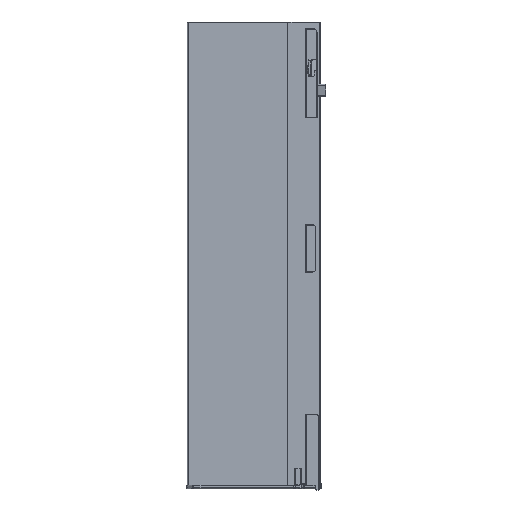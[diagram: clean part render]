
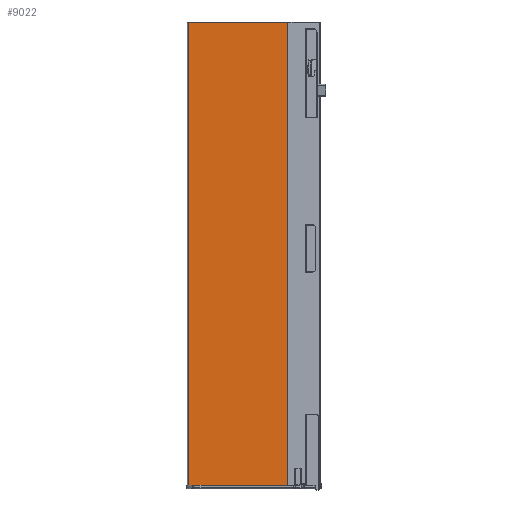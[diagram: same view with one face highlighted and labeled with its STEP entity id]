
A CAD part, left-side view. The second image highlights one B-rep face of the part: STEP entity #9022.
In plain terms, the highlighted planar face has unit normal (-1, 0, 0).
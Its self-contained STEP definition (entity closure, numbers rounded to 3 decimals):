
#784 = VECTOR ( 'NONE', #2990, 1000. ) ;
#1379 = DIRECTION ( 'NONE',  ( -1., 0., 0. ) ) ;
#1703 = CARTESIAN_POINT ( 'NONE',  ( 0.5, -0.5, 0. ) ) ;
#1891 = EDGE_CURVE ( 'NONE', #5724, #5931, #2549, .T. ) ;
#2392 = DIRECTION ( 'NONE',  ( 0., 0., -1. ) ) ;
#2549 = LINE ( 'NONE', #1703, #13938 ) ;
#2990 = DIRECTION ( 'NONE',  ( 0., -1., 0. ) ) ;
#4318 = ORIENTED_EDGE ( 'NONE', *, *, #7517, .T. ) ;
#4565 = CARTESIAN_POINT ( 'NONE',  ( 0.5, 0., -449. ) ) ;
#4786 = VECTOR ( 'NONE', #7772, 1000. ) ;
#5042 = DIRECTION ( 'NONE',  ( 0., 1., 0. ) ) ;
#5071 = VERTEX_POINT ( 'NONE', #10320 ) ;
#5724 = VERTEX_POINT ( 'NONE', #6214 ) ;
#5790 = CARTESIAN_POINT ( 'NONE',  ( 0.5, -0.5, -449. ) ) ;
#5931 = VERTEX_POINT ( 'NONE', #12100 ) ;
#6214 = CARTESIAN_POINT ( 'NONE',  ( 0.5, 0., 0. ) ) ;
#6644 = EDGE_LOOP ( 'NONE', ( #13808, #4318, #8358, #8844 ) ) ;
#6667 = CARTESIAN_POINT ( 'NONE',  ( 0.5, 93.8, -449. ) ) ;
#7517 = EDGE_CURVE ( 'NONE', #8760, #5071, #9308, .T. ) ;
#7772 = DIRECTION ( 'NONE',  ( 0., 0., 1. ) ) ;
#8358 = ORIENTED_EDGE ( 'NONE', *, *, #13835, .F. ) ;
#8529 = CARTESIAN_POINT ( 'NONE',  ( 0.5, 93.8, -437.8 ) ) ;
#8760 = VERTEX_POINT ( 'NONE', #8529 ) ;
#8844 = ORIENTED_EDGE ( 'NONE', *, *, #1891, .T. ) ;
#9022 = ADVANCED_FACE ( 'NONE', ( #10791 ), #9079, .T. ) ;
#9079 = PLANE ( 'NONE',  #12923 ) ;
#9138 = DIRECTION ( 'NONE',  ( 0., 0., -1. ) ) ;
#9308 = LINE ( 'NONE', #12915, #784 ) ;
#10320 = CARTESIAN_POINT ( 'NONE',  ( 0.5, 0., -437.8 ) ) ;
#10791 = FACE_OUTER_BOUND ( 'NONE', #6644, .T. ) ;
#10894 = VECTOR ( 'NONE', #2392, 1000. ) ;
#10971 = EDGE_CURVE ( 'NONE', #8760, #5931, #13608, .T. ) ;
#11258 = LINE ( 'NONE', #4565, #10894 ) ;
#12100 = CARTESIAN_POINT ( 'NONE',  ( 0.5, 93.8, 0. ) ) ;
#12915 = CARTESIAN_POINT ( 'NONE',  ( 0.5, 0., -437.8 ) ) ;
#12923 = AXIS2_PLACEMENT_3D ( 'NONE', #5790, #1379, #9138 ) ;
#13608 = LINE ( 'NONE', #6667, #4786 ) ;
#13808 = ORIENTED_EDGE ( 'NONE', *, *, #10971, .F. ) ;
#13835 = EDGE_CURVE ( 'NONE', #5724, #5071, #11258, .T. ) ;
#13938 = VECTOR ( 'NONE', #5042, 1000. ) ;
